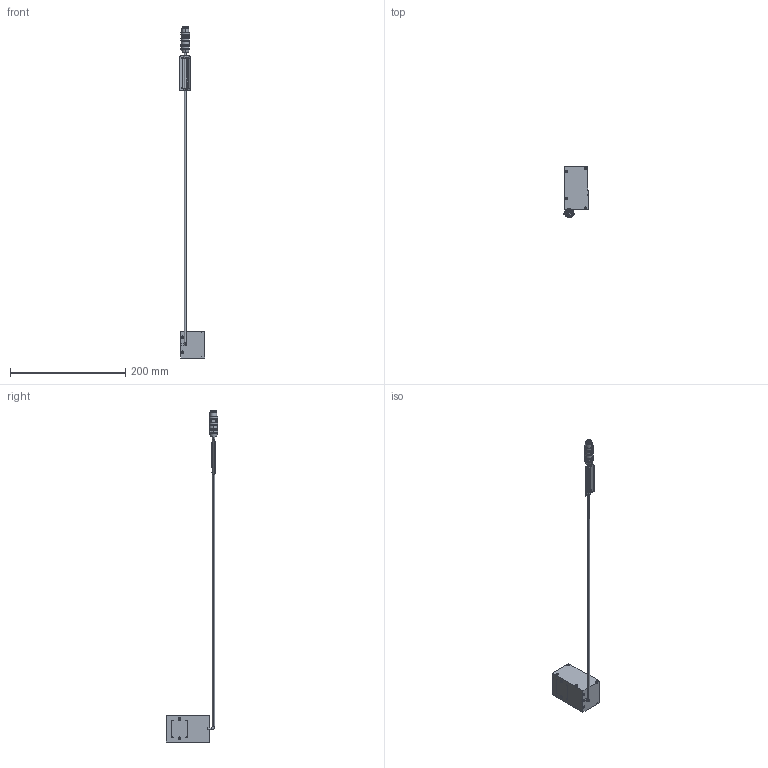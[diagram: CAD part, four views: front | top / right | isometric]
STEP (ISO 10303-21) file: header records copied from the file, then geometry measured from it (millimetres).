
FILE_DESCRIPTION (( 'STEP AP214' ), '1' );
FILE_NAME ('CV-CX-75X46X40#-M12(IMC-CX-75X46#-M).STEP', '2024-04-26T02:08:33', ( '' ), ( '' ), 'SwSTEP 2.0', 'SolidWorks 2023', '' );
FILE_SCHEMA (( 'AUTOMOTIVE_DESIGN' ));
Length unit declared in the file: millimetre
Products named in the file (1): CV-CX-75X46X40#-M12(IMC-CX-75X46#-M)
Bounding box: 43.5 x 89.65 x 575.75 mm (x, y, z)
Volume: 124899.2 mm3; surface area: 34718.9 mm2
Topology: 3 solids, 9 shells, 1212 faces, 3243 edges, 2117 vertices
Faces by surface type: plane 548, cylinder 413, bspline 126, cone 105, torus 20
Entity records: 41569 total; most frequent: CARTESIAN_POINT 11581, ORIENTED_EDGE 6486, DIRECTION 5942, EDGE_CURVE 3243, VERTEX_POINT 2117, AXIS2_PLACEMENT_3D 2074, VECTOR 1794, LINE 1794
